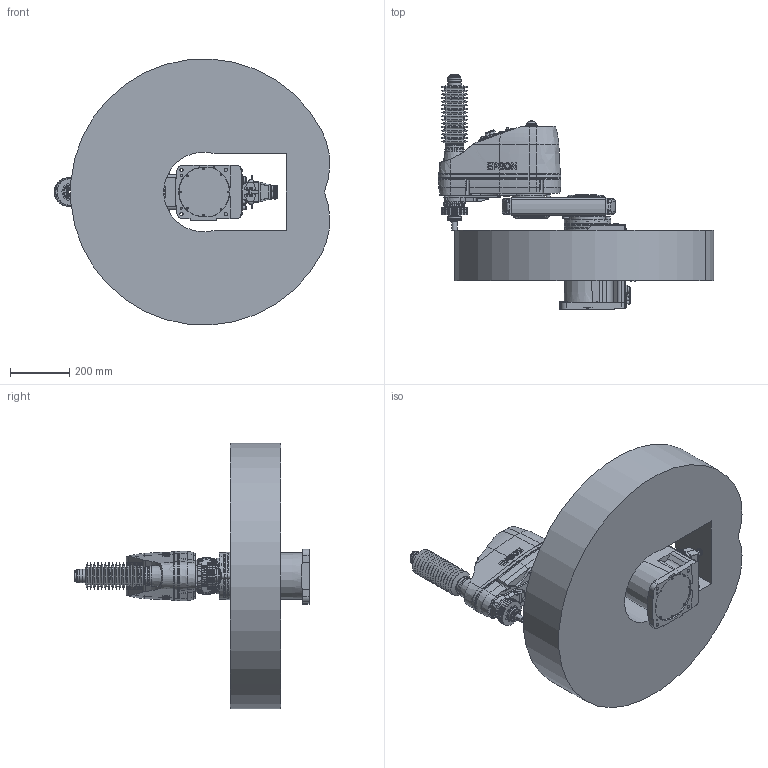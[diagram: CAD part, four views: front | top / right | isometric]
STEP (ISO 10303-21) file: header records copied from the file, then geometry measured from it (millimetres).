
FILE_DESCRIPTION( ( 'STEP AP214' ), '1' );
FILE_NAME( 'C:/Users/9607552/Desktop/GX8-B452C_straight.stp', '2023-07-07T01:58:48', ( '' ), ( '' ), ' ', 'PARTsolutions', ' ' );
FILE_SCHEMA( ( 'AUTOMOTIVE_DESIGN { 1 0 10303 214 1 1 1 1 }' ) );
Length unit declared in the file: millimetre
Products named in the file (11): GX8-B452CS-W; _B452C_BASE; _B452C; _B452C_1; _B452C_2; _B452C_J2; _B452CZA; _1-B-long; _1-B-short; _Straight-B; _GX8-10-B_WS
Assembly tree (12 placements, depth 2):
  GX8-B452CS-W
    _B452C_BASE
    _B452C
    _B452C_1  x2
    _B452C_2  x2
    _B452C_J2
    _B452CZA
    _1-B-long
    _1-B-short
    _Straight-B
    _GX8-10-B_WS
Bounding box: 931.38 x 791.5 x 898.63 mm (x, y, z)
Volume: 112795046.4 mm3; surface area: 3161139.5 mm2
Topology: 12 solids, 16 shells, 3336 faces, 8034 edges, 5188 vertices
Faces by surface type: plane 1601, cylinder 1078, cone 453, torus 162, bspline 37, sphere 5
Full cylindrical faces by diameter (mm): 1 x48, 1.18 x55, 2.261 x4, 2.459 x12, 3 x32, 3.242 x18, 3.3 x4, 3.9 x4, 4.2 x8, 4.5 x12, 4.8 x4, 5.34 x4, 5.5 x17, 6 x5, 6.2 x4, 6.647 x4, 6.8 x2, 7 x48, 8 x5, 8.5 x4, 9 x24, 10 x18, 11 x4, 11.2 x5, 11.5 x1, 12 x5, 12.2 x1, 12.25 x1, 13 x3, 13.2 x12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
Entity records: 118553 total; most frequent: CARTESIAN_POINT 22363, DIRECTION 14724, ORIENTED_EDGE 13284, EDGE_CURVE 6642, AXIS2_PLACEMENT_3D 5783, VERTEX_POINT 4801, EDGE_LOOP 4505, FACE_OUTER_BOUND 3743
